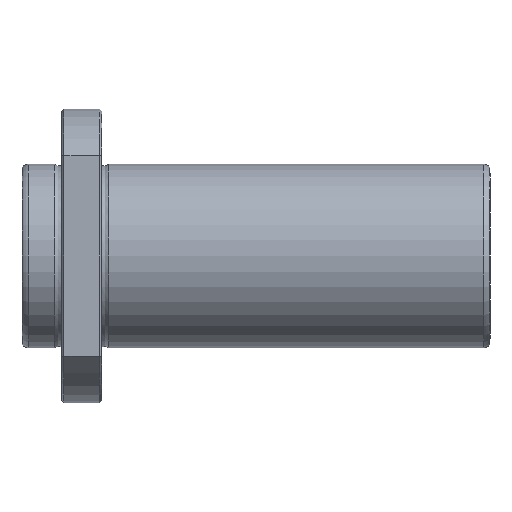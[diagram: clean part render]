
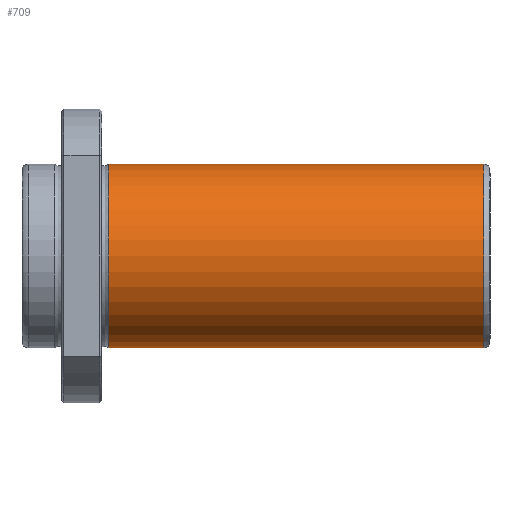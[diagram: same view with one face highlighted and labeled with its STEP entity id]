
A CAD part, front view. The second image highlights one B-rep face of the part: STEP entity #709.
In plain terms, the highlighted cylindrical face has radius 30 mm (diameter 60 mm), a full revolution.
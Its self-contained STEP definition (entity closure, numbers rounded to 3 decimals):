
#675=CARTESIAN_POINT('',(151.016,0.0,30.));
#676=VERTEX_POINT('',#675);
#677=CARTESIAN_POINT('',(151.016,0.0,0.0));
#678=DIRECTION('',(-1.0,0.0,0.0));
#679=DIRECTION('',(0.0,0.0,1.0));
#680=AXIS2_PLACEMENT_3D('',#677,#678,#679);
#681=CIRCLE('',#680,30.);
#682=EDGE_CURVE('',#676,#676,#681,.T.);
#690=CARTESIAN_POINT('',(89.708,0.0,0.0));
#691=DIRECTION('',(-1.0,0.0,0.0));
#692=DIRECTION('',(0.0,0.0,1.0));
#693=AXIS2_PLACEMENT_3D('',#690,#691,#692);
#694=CYLINDRICAL_SURFACE('',#693,30.);
#695=CARTESIAN_POINT('',(28.4,0.0,30.));
#696=VERTEX_POINT('',#695);
#697=CARTESIAN_POINT('',(28.4,0.0,0.0));
#698=DIRECTION('',(-1.0,0.0,0.0));
#699=DIRECTION('',(0.0,0.0,1.0));
#700=AXIS2_PLACEMENT_3D('',#697,#698,#699);
#701=CIRCLE('',#700,30.);
#702=EDGE_CURVE('',#696,#696,#701,.T.);
#703=ORIENTED_EDGE('',*,*,#702,.F.);
#704=EDGE_LOOP('',(#703));
#705=FACE_OUTER_BOUND('',#704,.T.);
#706=ORIENTED_EDGE('',*,*,#682,.T.);
#707=EDGE_LOOP('',(#706));
#708=FACE_BOUND('',#707,.T.);
#709=ADVANCED_FACE('',(#705,#708),#694,.T.);
